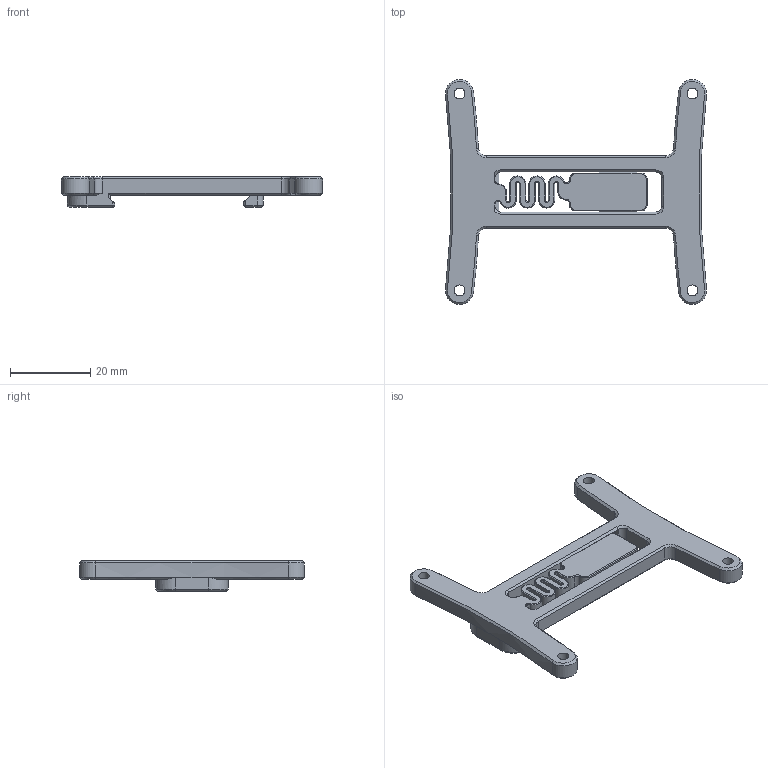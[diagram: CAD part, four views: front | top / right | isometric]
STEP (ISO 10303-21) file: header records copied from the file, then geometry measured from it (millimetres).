
FILE_DESCRIPTION(/* description */ (''),/* implementation_level */ '2;1');
FILE_NAME(/* name */ 'DIN Rail Bracket_Raspberry Pi.step',/* time_stamp */ '2023-12-25T15:12:49-06:00',/* author */ (''),/* organization */ (''),/* preprocessor_version */ 'ST-DEVELOPER v20',/* originating_system */ 'Autodesk Translation Framework v12.14.0.127',/* authorisation */ '');
FILE_SCHEMA (('AUTOMOTIVE_DESIGN { 1 0 10303 214 3 1 1 }'));
Length unit declared in the file: millimetre
Products named in the file (1): DIN Rail Bracket_BTT Pi 1.2
Bounding box: 64.99 x 55.99 x 7.5 mm (x, y, z)
Volume: 7053.2 mm3; surface area: 5673.8 mm2
Topology: 1 solids, 1 shells, 224 faces, 547 edges, 330 vertices
Faces by surface type: plane 93, cylinder 63, cone 60, sphere 4, torus 4
Full cylindrical faces by diameter (mm): 2.7 x4, 4.8 x4
Entity records: 6645 total; most frequent: CARTESIAN_POINT 1227, DIRECTION 1185, ORIENTED_EDGE 1094, EDGE_CURVE 547, AXIS2_PLACEMENT_3D 432, VERTEX_POINT 330, LINE 321, VECTOR 321
